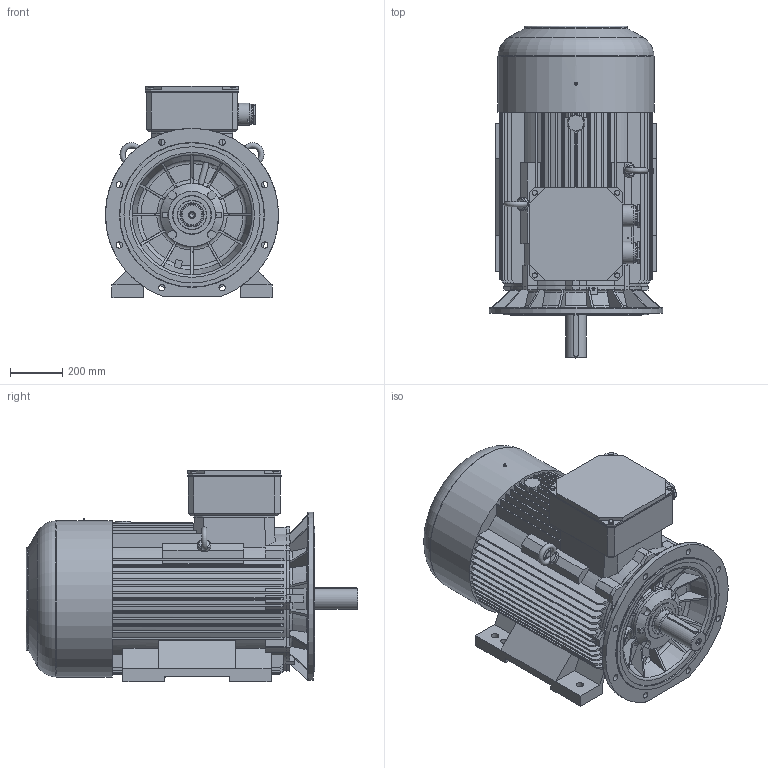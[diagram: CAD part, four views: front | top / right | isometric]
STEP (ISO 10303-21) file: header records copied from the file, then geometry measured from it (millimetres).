
FILE_DESCRIPTION( ( 'Unknown' ), '1' );
FILE_NAME( 'P:/3D_Bry³y silników skatalogowane/SIE/2SIE315/STP_2SIE315/2SIEL315_S_M_4AB_6A.stp', 'Unknown', ( 'Unknown' ), ( 'Unknown' ), 'XStep 1.0', 'Unknown', ' ' );
FILE_SCHEMA( ( 'CONFIG_CONTROL_DESIGN' ) );
Length unit declared in the file: millimetre
Products named in the file (2): 1; 2
Bounding box: 660 x 1264.99 x 804.5 mm (x, y, z)
Volume: 271933268 mm3; surface area: 6877863 mm2
Topology: 2 solids, 21 shells, 1290 faces, 3476 edges, 2279 vertices
Faces by surface type: plane 805, cylinder 254, cone 108, torus 107, bspline 16
Full cylindrical faces by diameter (mm): 1.6 x2, 4.917 x2, 5 x4, 10.106 x8, 13.835 x1, 16.63 x4, 17.294 x1, 19.6 x2, 20 x1, 20.752 x4, 21 x1, 24 x8, 28 x6, 36 x1, 50 x2, 55 x2, 57 x4, 65 x4, 70 x2, 71 x6, 72 x2, 72.752 x2, 76 x2, 79.999 x1, 85 x2, 86.5 x1, 89.5 x1, 90 x2, 99.4 x1, 100 x1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
Entity records: 49229 total; most frequent: CARTESIAN_POINT 17839, ORIENTED_EDGE 6476, DIRECTION 6304, EDGE_CURVE 3238, VERTEX_POINT 2217, AXIS2_PLACEMENT_3D 2195, LINE 1914, VECTOR 1914
